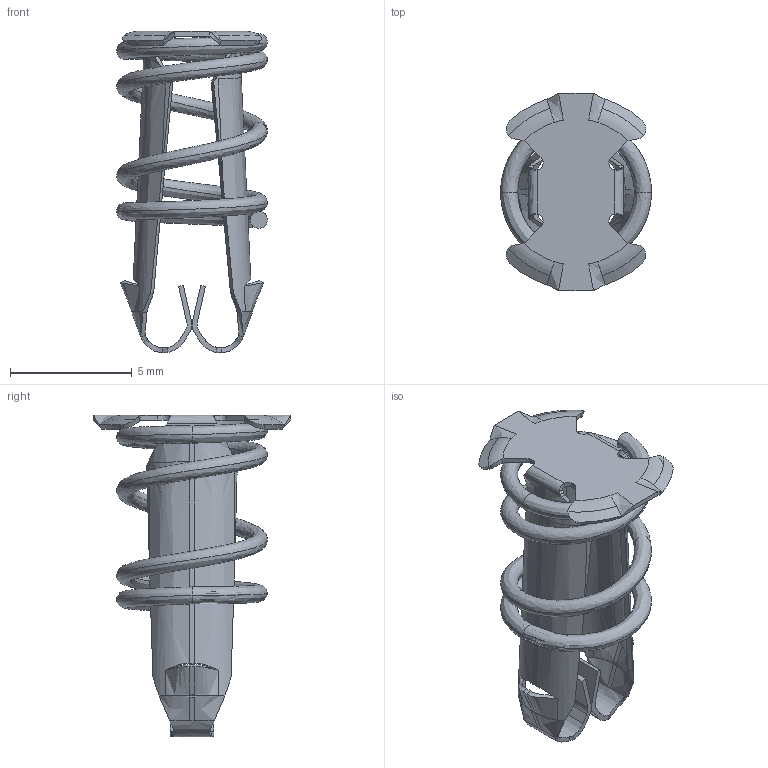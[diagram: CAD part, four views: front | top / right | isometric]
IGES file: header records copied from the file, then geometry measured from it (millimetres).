
Global section: file name: C:\CoreTechnologie\3D-in\021YA01Y0B.igs; native system: CT CoreTechnologie 3D Evolution; preprocessor: 2006; author: 商V0,; organization: 11; date: 1180023.143412; units: millimetre
Bounding box: 6.2 x 8.1 x 13.21 mm (x, y, z)
Volume: 54.3 mm3; surface area: 450.2 mm2
Topology: 2 solids, 2 shells, 213 faces, 602 edges, 389 vertices
Faces by surface type: bspline 94, plane 70, revolution 49
